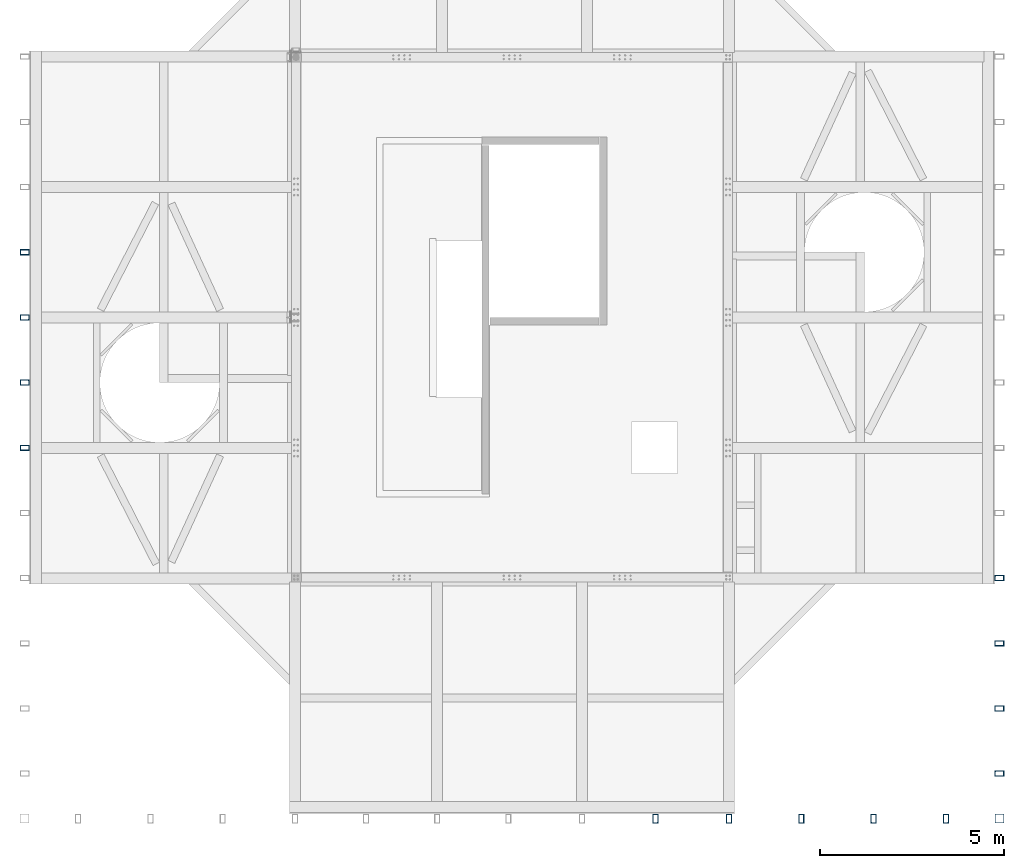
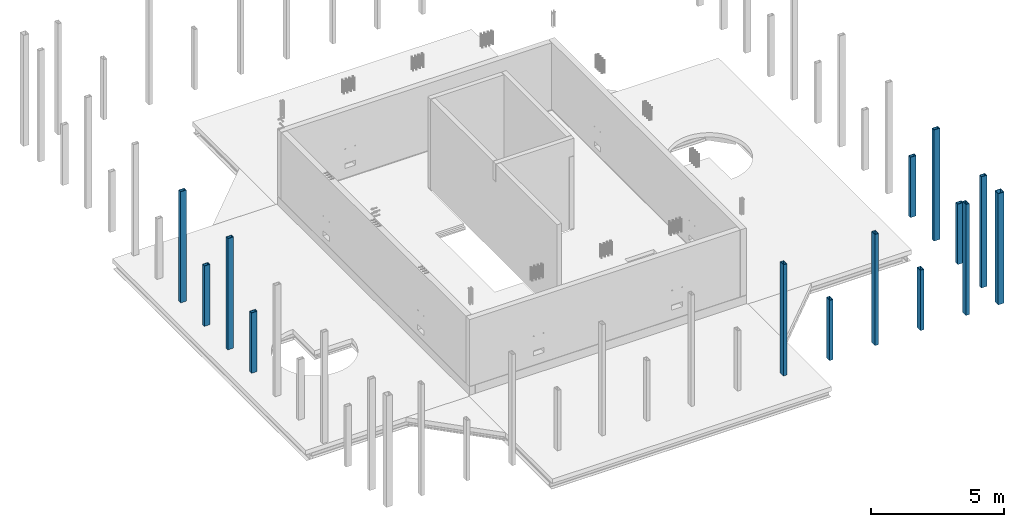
# One storey, part 2 of 16: 14 columns.
"""IFC2X3 building model written with IfcOpenShell, lengths in millimetres."""

from ifc_helpers import new_model, entity, si_unit, converted_unit, derived_unit, direction, frame, frame_2d, origin, place, context, subcontext, project, spatial, polyline, circle_curve, parameter, trimmed, segment, composite_curve, outline, extrude, source, transform, mapped, material, type_object, type_shapes, element, save


model = new_model("IFC2X3")

# Units and contexts
model_context = context("Model", 3, precision=0.01, world=origin(), true_north=direction((6.12303176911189e-17, 1.0)))
body_context = subcontext(model_context, "Body", "Model", "MODEL_VIEW")
ifc_project = project(units=[si_unit("LENGTHUNIT", "METRE", prefix="MILLI"), si_unit("AREAUNIT", "SQUARE_METRE"), si_unit("VOLUMEUNIT", "CUBIC_METRE"), converted_unit("PLANEANGLEUNIT", "DEGREE", entity("IfcRatioMeasure", 0.0174532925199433), si_unit("PLANEANGLEUNIT", "RADIAN"), dimensions=[0, 0, 0, 0, 0, 0, 0]), si_unit("MASSUNIT", "GRAM", prefix="KILO"), derived_unit("MASSDENSITYUNIT", [(si_unit("MASSUNIT", "GRAM", prefix="KILO"), 1), (si_unit("LENGTHUNIT", "METRE"), -3)]), si_unit("TIMEUNIT", "SECOND"), si_unit("FREQUENCYUNIT", "HERTZ"), si_unit("THERMODYNAMICTEMPERATUREUNIT", "DEGREE_CELSIUS"), derived_unit("THERMALTRANSMITTANCEUNIT", [(si_unit("MASSUNIT", "GRAM", prefix="KILO"), 1), (si_unit("THERMODYNAMICTEMPERATUREUNIT", "KELVIN"), -1), (si_unit("TIMEUNIT", "SECOND"), -3)]), derived_unit("VOLUMETRICFLOWRATEUNIT", [(si_unit("LENGTHUNIT", "METRE"), 3), (si_unit("TIMEUNIT", "SECOND"), -1)]), si_unit("ELECTRICCURRENTUNIT", "AMPERE"), si_unit("ELECTRICVOLTAGEUNIT", "VOLT"), si_unit("POWERUNIT", "WATT"), si_unit("FORCEUNIT", "NEWTON", prefix="KILO"), si_unit("ILLUMINANCEUNIT", "LUX"), si_unit("LUMINOUSFLUXUNIT", "LUMEN"), si_unit("LUMINOUSINTENSITYUNIT", "CANDELA"), derived_unit("USERDEFINED", [(si_unit("MASSUNIT", "GRAM", prefix="KILO"), -1), (si_unit("LENGTHUNIT", "METRE"), -2), (si_unit("TIMEUNIT", "SECOND"), 3), (si_unit("LUMINOUSFLUXUNIT", "LUMEN"), 1)]), derived_unit("LINEARVELOCITYUNIT", [(si_unit("LENGTHUNIT", "METRE"), 1), (si_unit("TIMEUNIT", "SECOND"), -1)]), si_unit("PRESSUREUNIT", "PASCAL"), derived_unit("USERDEFINED", [(si_unit("LENGTHUNIT", "METRE"), -2), (si_unit("MASSUNIT", "GRAM", prefix="KILO"), 1), (si_unit("TIMEUNIT", "SECOND"), -2)])], contexts=[model_context])

# Site, building, storey
site_placement = place(None, origin())
site = spatial("IfcSite", under=ifc_project, at=site_placement, Name="Default", CompositionType="ELEMENT")
building_placement = place(site_placement, origin())
building = spatial("IfcBuilding", under=site, at=building_placement, Name="niet gebruiken", CompositionType="ELEMENT")
storey_placement = place(building_placement, frame((0.0, 0.0, 183150.0)))
storey = spatial("IfcBuildingStorey", under=building, at=storey_placement, Name="58 achtenvijftigste verdieping", CompositionType="ELEMENT", Elevation=183150.0)

# Columns
ifc_material = material(Name="NLRS_h2_staal")
column_type_1 = type_object("IfcColumnType", Name="kolom buisprofiel rechthoekig RHSH_250x150x16", PredefinedType="COLUMN", material=ifc_material)
shared_shape_1 = source(origin(), body_context, "Body", "SweptSolid", [
    extrude(outline(polyline([(-125.0, -75.0), (125.0, -75.0), (125.0, 75.0), (-125.0, 75.0), (-125.0, -75.0)]), holes=[composite_curve([segment(trimmed(circle_curve(frame_2d((-96.4999999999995, -46.5), x_axis=(0.0, 1.0)), 12.5), [parameter(90.0)], [parameter(180.0)], True, "PARAMETER"), False, "CONTINUOUS"), segment(polyline([(-109.0, -46.5), (-109.0, 46.5)]), True, "CONTINUOUS"), segment(trimmed(circle_curve(frame_2d((-96.4999999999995, 46.5), x_axis=(0.0, 1.0)), 12.5), [parameter(360.0)], [parameter(89.9999999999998)], True, "PARAMETER"), False, "CONTINUOUS"), segment(polyline([(-96.4999999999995, 59.0), (96.5000000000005, 59.0)]), True, "CONTINUOUS"), segment(trimmed(circle_curve(frame_2d((96.5000000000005, 46.5), x_axis=(0.0, 1.0)), 12.5), [parameter(270.0)], [parameter(360.0)], True, "PARAMETER"), False, "CONTINUOUS"), segment(polyline([(109.0, 46.5), (109.0, -46.5)]), True, "CONTINUOUS"), segment(trimmed(circle_curve(frame_2d((96.5000000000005, -46.5), x_axis=(0.0, 1.0)), 12.5), [parameter(180.0)], [parameter(270.0)], True, "PARAMETER"), False, "CONTINUOUS"), segment(polyline([(96.5000000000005, -59.0), (-96.4999999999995, -59.0)]), True, "CONTINUOUS")], self_intersect=False)]), frame((145650.0, 3870.0, 184200.0), z_axis=(0.0, 0.0, 1.0), x_axis=(0.0, -1.0, 0.0)), (0.0, 0.0, 1.0), 5089.99999999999),
])
type_shapes(column_type_1, [shared_shape_1])
column_1_placement = place(storey_placement, frame((0.0, 0.0, -183150.0)))
element("IfcColumn", 1, at=column_1_placement, inside=storey, type_object=column_type_1, material=ifc_material, Name="NLRS_28.11_SCO_TLB_stalen kolom buisprofiel rechthoekig_gen:kolom buisprofiel rechthoekig RHSH_250x150x16", ObjectType="kolom buisprofiel rechthoekig RHSH_250x150x16", context=body_context, shape_type="MappedRepresentation", body=[
    mapped(shared_shape_1, transform((0.0, 0.0, 0.0), scale=1.0)),
])
column_type_2 = type_object("IfcColumnType", Name="kolom buisprofiel rechthoekig RHSH_250x150x16", PredefinedType="COLUMN", material=ifc_material)
shared_shape_2 = source(origin(), body_context, "Body", "SweptSolid", [
    extrude(outline(polyline([(-125.0, -75.0), (125.0, -75.0), (125.0, 75.0), (-125.0, 75.0), (-125.0, -75.0)]), holes=[composite_curve([segment(trimmed(circle_curve(frame_2d((-96.4999999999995, -46.4999999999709), x_axis=(0.0, 1.0)), 12.5), [parameter(90.0)], [parameter(180.0)], True, "PARAMETER"), False, "CONTINUOUS"), segment(polyline([(-109.0, -46.4999999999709), (-109.0, 46.5)]), True, "CONTINUOUS"), segment(trimmed(circle_curve(frame_2d((-96.4999999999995, 46.5), x_axis=(0.0, 1.0)), 12.5), [parameter(360.0)], [parameter(89.9999999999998)], True, "PARAMETER"), False, "CONTINUOUS"), segment(polyline([(-96.4999999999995, 59.0), (96.5000000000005, 59.0)]), True, "CONTINUOUS"), segment(trimmed(circle_curve(frame_2d((96.5000000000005, 46.5), x_axis=(0.0, 1.0)), 12.5), [parameter(270.0)], [parameter(360.0)], True, "PARAMETER"), False, "CONTINUOUS"), segment(polyline([(109.0, 46.5), (109.0, -46.4999999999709)]), True, "CONTINUOUS"), segment(trimmed(circle_curve(frame_2d((96.5000000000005, -46.4999999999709), x_axis=(0.0, 1.0)), 12.5), [parameter(180.0)], [parameter(270.0)], True, "PARAMETER"), False, "CONTINUOUS"), segment(polyline([(96.5000000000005, -59.0), (-96.4999999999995, -59.0)]), True, "CONTINUOUS")], self_intersect=False)]), frame((153550.0, 3870.0, 184200.0), z_axis=(0.0, 0.0, 1.0), x_axis=(0.0, -1.0, 0.0)), (0.0, 0.0, 1.0), 5089.99999999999),
])
type_shapes(column_type_2, [shared_shape_2])
column_2_placement = place(storey_placement, frame((0.0, 0.0, -183150.0)))
element("IfcColumn", 2, at=column_2_placement, inside=storey, type_object=column_type_2, material=ifc_material, Name="NLRS_28.11_SCO_TLB_stalen kolom buisprofiel rechthoekig_gen:kolom buisprofiel rechthoekig RHSH_250x150x16", ObjectType="kolom buisprofiel rechthoekig RHSH_250x150x16", context=body_context, shape_type="MappedRepresentation", body=[
    mapped(shared_shape_2, transform((0.0, 0.0, 0.0), scale=1.0)),
])
column_type_3 = type_object("IfcColumnType", Name="kolom buisprofiel warmgevormd vierkant SHSH_250x250x16", PredefinedType="COLUMN", material=ifc_material)
shared_shape_3 = source(origin(), body_context, "Body", "SweptSolid", [
    extrude(outline(polyline([(-125.0, -125.0), (125.0, -125.0), (125.0, 125.0), (-125.0, 125.0), (-125.0, -125.0)]), holes=[composite_curve([segment(trimmed(circle_curve(frame_2d((-99.0, -99.0), x_axis=(0.0, 1.0)), 10.0), [parameter(90.0000000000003)], [parameter(180.0)], True, "PARAMETER"), False, "CONTINUOUS"), segment(polyline([(-109.0, -99.0), (-109.0, 99.0)]), True, "CONTINUOUS"), segment(trimmed(circle_curve(frame_2d((-99.0, 99.0), x_axis=(0.0, 1.0)), 10.0), [parameter(0.0)], [parameter(89.9999999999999)], True, "PARAMETER"), False, "CONTINUOUS"), segment(polyline([(-99.0, 109.0), (99.0, 109.0)]), True, "CONTINUOUS"), segment(trimmed(circle_curve(frame_2d((99.0, 99.0), x_axis=(0.0, 1.0)), 10.0), [parameter(270.0)], [parameter(360.0)], True, "PARAMETER"), False, "CONTINUOUS"), segment(polyline([(109.0, 99.0), (109.0, -99.0)]), True, "CONTINUOUS"), segment(trimmed(circle_curve(frame_2d((99.0, -99.0), x_axis=(0.0, 1.0)), 10.0), [parameter(180.0)], [parameter(270.0)], True, "PARAMETER"), False, "CONTINUOUS"), segment(polyline([(99.0, -109.0), (-99.0, -109.0)]), True, "CONTINUOUS")], self_intersect=False)]), frame((155005.0, 3870.0, 184200.0), z_axis=(0.0, 0.0, 1.0), x_axis=(0.0, -1.0, 0.0)), (0.0, 0.0, 1.0), 5089.99999999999),
])
type_shapes(column_type_3, [shared_shape_3])
column_3_placement = place(storey_placement, frame((0.0, 0.0, -183150.0)))
element("IfcColumn", 3, at=column_3_placement, inside=storey, type_object=column_type_3, material=ifc_material, Name="NLRS_28.11_SCO_TLB_stalen kolom buisprofiel warmgevormd vierkant_gen:kolom buisprofiel warmgevormd vierkant SHSH_250x250x16", ObjectType="kolom buisprofiel warmgevormd vierkant SHSH_250x250x16", context=body_context, shape_type="MappedRepresentation", body=[
    mapped(shared_shape_3, transform((0.0, 0.0, 0.0), scale=1.0)),
])
column_type_4 = type_object("IfcColumnType", Name="kolom buisprofiel rechthoekig RHSH_250x150x16", PredefinedType="COLUMN", material=ifc_material)
shared_shape_4 = source(origin(), body_context, "Body", "SweptSolid", [
    extrude(outline(polyline([(-125.0, -75.0), (125.0, -75.0), (125.0, 75.0), (-125.0, 75.0), (-125.0, -75.0)]), holes=[composite_curve([segment(trimmed(circle_curve(frame_2d((-96.5000000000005, -46.5), x_axis=(0.0, 1.0)), 12.5), [parameter(90.0)], [parameter(180.0)], True, "PARAMETER"), False, "CONTINUOUS"), segment(polyline([(-109.0, -46.5), (-109.0, 46.5)]), True, "CONTINUOUS"), segment(trimmed(circle_curve(frame_2d((-96.5000000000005, 46.5), x_axis=(0.0, 1.0)), 12.5), [parameter(360.0)], [parameter(89.9999999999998)], True, "PARAMETER"), False, "CONTINUOUS"), segment(polyline([(-96.5000000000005, 59.0), (96.4999999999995, 59.0)]), True, "CONTINUOUS"), segment(trimmed(circle_curve(frame_2d((96.4999999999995, 46.5), x_axis=(0.0, 1.0)), 12.5), [parameter(270.0)], [parameter(360.0)], True, "PARAMETER"), False, "CONTINUOUS"), segment(polyline([(109.0, 46.5), (109.0, -46.5)]), True, "CONTINUOUS"), segment(trimmed(circle_curve(frame_2d((96.4999999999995, -46.5), x_axis=(0.0, 1.0)), 12.5), [parameter(180.0)], [parameter(270.0)], True, "PARAMETER"), False, "CONTINUOUS"), segment(polyline([(96.4999999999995, -59.0), (-96.5000000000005, -59.0)]), True, "CONTINUOUS")], self_intersect=False)]), frame((147650.0, 3870.0, 184200.0), z_axis=(0.0, 0.0, 1.0), x_axis=(0.0, -1.0, 0.0)), (0.0, 0.0, 1.0), 2760.0),
])
type_shapes(column_type_4, [shared_shape_4])
column_4_placement = place(storey_placement, frame((0.0, 0.0, -183150.0)))
element("IfcColumn", 4, at=column_4_placement, inside=storey, type_object=column_type_4, material=ifc_material, Name="NLRS_28.11_SCO_TLB_stalen kolom buisprofiel rechthoekig_gen:kolom buisprofiel rechthoekig RHSH_250x150x16", ObjectType="kolom buisprofiel rechthoekig RHSH_250x150x16", context=body_context, shape_type="MappedRepresentation", body=[
    mapped(shared_shape_4, transform((0.0, 0.0, 0.0), scale=1.0)),
])
column_type_5 = type_object("IfcColumnType", Name="kolom buisprofiel rechthoekig RHSH_250x150x16", PredefinedType="COLUMN", material=ifc_material)
shared_shape_5 = source(origin(), body_context, "Body", "SweptSolid", [
    extrude(outline(polyline([(-125.0, -75.0), (125.0, -75.0), (125.0, 75.0), (-125.0, 75.0), (-125.0, -75.0)]), holes=[composite_curve([segment(trimmed(circle_curve(frame_2d((-96.5, -46.5), x_axis=(0.0, 1.0)), 12.5), [parameter(90.0)], [parameter(180.0)], True, "PARAMETER"), False, "CONTINUOUS"), segment(polyline([(-109.0, -46.5), (-109.0, 46.5)]), True, "CONTINUOUS"), segment(trimmed(circle_curve(frame_2d((-96.5, 46.5), x_axis=(0.0, 1.0)), 12.5), [parameter(360.0)], [parameter(89.9999999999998)], True, "PARAMETER"), False, "CONTINUOUS"), segment(polyline([(-96.5, 59.0), (96.5, 59.0)]), True, "CONTINUOUS"), segment(trimmed(circle_curve(frame_2d((96.5, 46.5), x_axis=(0.0, 1.0)), 12.5), [parameter(270.0)], [parameter(360.0)], True, "PARAMETER"), False, "CONTINUOUS"), segment(polyline([(109.0, 46.5), (109.0, -46.5)]), True, "CONTINUOUS"), segment(trimmed(circle_curve(frame_2d((96.5, -46.5), x_axis=(0.0, 1.0)), 12.5), [parameter(180.0)], [parameter(270.0)], True, "PARAMETER"), False, "CONTINUOUS"), segment(polyline([(96.5, -59.0), (-96.5, -59.0)]), True, "CONTINUOUS")], self_intersect=False)]), frame((149616.666666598, 3870.0, 184200.0), z_axis=(0.0, 0.0, 1.0), x_axis=(0.0, -1.0, 0.0)), (0.0, 0.0, 1.0), 5089.99999999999),
])
type_shapes(column_type_5, [shared_shape_5])
column_5_placement = place(storey_placement, frame((0.0, 0.0, -183150.0)))
element("IfcColumn", 5, at=column_5_placement, inside=storey, type_object=column_type_5, material=ifc_material, Name="NLRS_28.11_SCO_TLB_stalen kolom buisprofiel rechthoekig_gen:kolom buisprofiel rechthoekig RHSH_250x150x16", ObjectType="kolom buisprofiel rechthoekig RHSH_250x150x16", context=body_context, shape_type="MappedRepresentation", body=[
    mapped(shared_shape_5, transform((0.0, 0.0, 0.0), scale=1.0)),
])
column_type_6 = type_object("IfcColumnType", Name="kolom buisprofiel rechthoekig RHSH_250x150x16", PredefinedType="COLUMN", material=ifc_material)
shared_shape_6 = source(origin(), body_context, "Body", "SweptSolid", [
    extrude(outline(polyline([(-125.0, -75.0), (125.0, -75.0), (125.0, 75.0), (-125.0, 75.0), (-125.0, -75.0)]), holes=[composite_curve([segment(trimmed(circle_curve(frame_2d((-96.4999999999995, -46.5), x_axis=(0.0, 1.0)), 12.5), [parameter(90.0)], [parameter(180.0)], True, "PARAMETER"), False, "CONTINUOUS"), segment(polyline([(-109.0, -46.5), (-109.0, 46.4999999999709)]), True, "CONTINUOUS"), segment(trimmed(circle_curve(frame_2d((-96.4999999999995, 46.4999999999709), x_axis=(0.0, 1.0)), 12.5), [parameter(360.0)], [parameter(89.9999999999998)], True, "PARAMETER"), False, "CONTINUOUS"), segment(polyline([(-96.4999999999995, 59.0), (96.5, 59.0)]), True, "CONTINUOUS"), segment(trimmed(circle_curve(frame_2d((96.5, 46.4999999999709), x_axis=(0.0, 1.0)), 12.5), [parameter(270.0)], [parameter(360.0)], True, "PARAMETER"), False, "CONTINUOUS"), segment(polyline([(109.0, 46.4999999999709), (109.0, -46.5)]), True, "CONTINUOUS"), segment(trimmed(circle_curve(frame_2d((96.5, -46.5), x_axis=(0.0, 1.0)), 12.5), [parameter(180.0)], [parameter(270.0)], True, "PARAMETER"), False, "CONTINUOUS"), segment(polyline([(96.5, -59.0), (-96.4999999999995, -59.0)]), True, "CONTINUOUS")], self_intersect=False)]), frame((151583.333333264, 3870.0, 184200.0), z_axis=(0.0, 0.0, 1.0), x_axis=(0.0, -1.0, 0.0)), (0.0, 0.0, 1.0), 2760.0),
])
type_shapes(column_type_6, [shared_shape_6])
column_6_placement = place(storey_placement, frame((0.0, 0.0, -183150.0)))
element("IfcColumn", 6, at=column_6_placement, inside=storey, type_object=column_type_6, material=ifc_material, Name="NLRS_28.11_SCO_TLB_stalen kolom buisprofiel rechthoekig_gen:kolom buisprofiel rechthoekig RHSH_250x150x16", ObjectType="kolom buisprofiel rechthoekig RHSH_250x150x16", context=body_context, shape_type="MappedRepresentation", body=[
    mapped(shared_shape_6, transform((0.0, 0.0, 0.0), scale=1.0)),
])
column_type_7 = type_object("IfcColumnType", Name="kolom buisprofiel rechthoekig RHSH_250x150x16", PredefinedType="COLUMN", material=ifc_material)
shared_shape_7 = source(origin(), body_context, "Body", "SweptSolid", [
    extrude(outline(polyline([(-125.0, -75.0), (125.0, -75.0), (125.0, 75.0), (-125.0, 75.0), (-125.0, -75.0)]), holes=[composite_curve([segment(trimmed(circle_curve(frame_2d((-96.5, -46.5), x_axis=(0.0, 1.0)), 12.5), [parameter(90.0)], [parameter(180.0)], True, "PARAMETER"), False, "CONTINUOUS"), segment(polyline([(-109.0, -46.5), (-109.0, 46.5000000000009)]), True, "CONTINUOUS"), segment(trimmed(circle_curve(frame_2d((-96.5, 46.5000000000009), x_axis=(0.0, 1.0)), 12.5), [parameter(360.0)], [parameter(89.9999999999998)], True, "PARAMETER"), False, "CONTINUOUS"), segment(polyline([(-96.4999999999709, 59.0), (96.5000000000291, 59.0)]), True, "CONTINUOUS"), segment(trimmed(circle_curve(frame_2d((96.5000000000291, 46.5000000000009), x_axis=(0.0, 1.0)), 12.5), [parameter(270.0)], [parameter(360.0)], True, "PARAMETER"), False, "CONTINUOUS"), segment(polyline([(109.0, 46.4999999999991), (109.0, -46.5)]), True, "CONTINUOUS"), segment(trimmed(circle_curve(frame_2d((96.5000000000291, -46.5), x_axis=(0.0, 1.0)), 12.5), [parameter(180.0)], [parameter(270.0)], True, "PARAMETER"), False, "CONTINUOUS"), segment(polyline([(96.5000000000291, -59.0), (-96.4999999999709, -59.0)]), True, "CONTINUOUS")], self_intersect=False)]), frame((155005.0, 5092.50000000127, 184200.0)), (0.0, 0.0, 1.0), 5089.99999999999),
])
type_shapes(column_type_7, [shared_shape_7])
column_7_placement = place(storey_placement, frame((0.0, 0.0, -183150.0)))
element("IfcColumn", 7, at=column_7_placement, inside=storey, type_object=column_type_7, material=ifc_material, Name="NLRS_28.11_SCO_TLB_stalen kolom buisprofiel rechthoekig_gen:kolom buisprofiel rechthoekig RHSH_250x150x16", ObjectType="kolom buisprofiel rechthoekig RHSH_250x150x16", context=body_context, shape_type="MappedRepresentation", body=[
    mapped(shared_shape_7, transform((0.0, 0.0, 0.0), scale=1.0)),
])
column_type_8 = type_object("IfcColumnType", Name="kolom buisprofiel rechthoekig RHSH_250x150x16", PredefinedType="COLUMN", material=ifc_material)
shared_shape_8 = source(origin(), body_context, "Body", "SweptSolid", [
    extrude(outline(polyline([(-125.0, -75.0), (125.0, -75.0), (125.0, 75.0), (-125.0, 75.0), (-125.0, -75.0)]), holes=[composite_curve([segment(trimmed(circle_curve(frame_2d((-96.5, -46.5), x_axis=(0.0, 1.0)), 12.5), [parameter(90.0)], [parameter(180.0)], True, "PARAMETER"), False, "CONTINUOUS"), segment(polyline([(-109.0, -46.5), (-109.0, 46.5)]), True, "CONTINUOUS"), segment(trimmed(circle_curve(frame_2d((-96.5, 46.5), x_axis=(0.0, 1.0)), 12.5), [parameter(360.0)], [parameter(89.9999999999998)], True, "PARAMETER"), False, "CONTINUOUS"), segment(polyline([(-96.4999999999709, 59.0), (96.5000000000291, 59.0)]), True, "CONTINUOUS"), segment(trimmed(circle_curve(frame_2d((96.5000000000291, 46.5), x_axis=(0.0, 1.0)), 12.5), [parameter(270.0)], [parameter(360.0)], True, "PARAMETER"), False, "CONTINUOUS"), segment(polyline([(109.0, 46.4999999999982), (109.0, -46.5)]), True, "CONTINUOUS"), segment(trimmed(circle_curve(frame_2d((96.5000000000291, -46.5), x_axis=(0.0, 1.0)), 12.5), [parameter(180.0)], [parameter(270.0)], True, "PARAMETER"), False, "CONTINUOUS"), segment(polyline([(96.5000000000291, -59.0), (-96.4999999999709, -59.0)]), True, "CONTINUOUS")], self_intersect=False)]), frame((155005.0, 8637.50000000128, 184200.0)), (0.0, 0.0, 1.0), 5089.99999999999),
])
type_shapes(column_type_8, [shared_shape_8])
column_8_placement = place(storey_placement, frame((0.0, 0.0, -183150.0)))
element("IfcColumn", 8, at=column_8_placement, inside=storey, type_object=column_type_8, material=ifc_material, Name="NLRS_28.11_SCO_TLB_stalen kolom buisprofiel rechthoekig_gen:kolom buisprofiel rechthoekig RHSH_250x150x16", ObjectType="kolom buisprofiel rechthoekig RHSH_250x150x16", context=body_context, shape_type="MappedRepresentation", body=[
    mapped(shared_shape_8, transform((0.0, 0.0, 0.0), scale=1.0)),
])
column_type_9 = type_object("IfcColumnType", Name="kolom buisprofiel rechthoekig RHSH_250x150x16", PredefinedType="COLUMN", material=ifc_material)
shared_shape_9 = source(origin(), body_context, "Body", "SweptSolid", [
    extrude(outline(polyline([(-125.0, -75.0), (125.0, -75.0), (125.0, 75.0), (-125.0, 75.0), (-125.0, -75.0)]), holes=[composite_curve([segment(trimmed(circle_curve(frame_2d((-96.5, -46.5), x_axis=(0.0, 1.0)), 12.5), [parameter(90.0)], [parameter(180.0)], True, "PARAMETER"), False, "CONTINUOUS"), segment(polyline([(-109.0, -46.5), (-109.0, 46.5000000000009)]), True, "CONTINUOUS"), segment(trimmed(circle_curve(frame_2d((-96.5, 46.5000000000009), x_axis=(0.0, 1.0)), 12.5), [parameter(360.0)], [parameter(89.9999999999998)], True, "PARAMETER"), False, "CONTINUOUS"), segment(polyline([(-96.4999999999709, 59.0), (96.5000000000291, 59.0)]), True, "CONTINUOUS"), segment(trimmed(circle_curve(frame_2d((96.5000000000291, 46.5000000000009), x_axis=(0.0, 1.0)), 12.5), [parameter(270.0)], [parameter(360.0)], True, "PARAMETER"), False, "CONTINUOUS"), segment(polyline([(109.0, 46.5), (109.0, -46.5)]), True, "CONTINUOUS"), segment(trimmed(circle_curve(frame_2d((96.5000000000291, -46.5), x_axis=(0.0, 1.0)), 12.5), [parameter(180.0)], [parameter(270.0)], True, "PARAMETER"), False, "CONTINUOUS"), segment(polyline([(96.5000000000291, -59.0), (-96.4999999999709, -59.0)]), True, "CONTINUOUS")], self_intersect=False)]), frame((155005.0, 6865.0, 184200.0)), (0.0, 0.0, 1.0), 2760.0),
])
type_shapes(column_type_9, [shared_shape_9])
column_9_placement = place(storey_placement, frame((0.0, 0.0, -183150.0)))
element("IfcColumn", 9, at=column_9_placement, inside=storey, type_object=column_type_9, material=ifc_material, Name="NLRS_28.11_SCO_TLB_stalen kolom buisprofiel rechthoekig_gen:kolom buisprofiel rechthoekig RHSH_250x150x16", ObjectType="kolom buisprofiel rechthoekig RHSH_250x150x16", context=body_context, shape_type="MappedRepresentation", body=[
    mapped(shared_shape_9, transform((0.0, 0.0, 0.0), scale=1.0)),
])
column_type_10 = type_object("IfcColumnType", Name="kolom buisprofiel rechthoekig RHSH_250x150x16", PredefinedType="COLUMN", material=ifc_material)
shared_shape_10 = source(origin(), body_context, "Body", "SweptSolid", [
    extrude(outline(polyline([(-125.0, -75.0), (125.0, -75.0), (125.0, 75.0), (-125.0, 75.0), (-125.0, -75.0)]), holes=[composite_curve([segment(trimmed(circle_curve(frame_2d((-96.5, -46.5), x_axis=(0.0, 1.0)), 12.5), [parameter(90.0)], [parameter(180.0)], True, "PARAMETER"), False, "CONTINUOUS"), segment(polyline([(-109.0, -46.5), (-109.0, 46.5)]), True, "CONTINUOUS"), segment(trimmed(circle_curve(frame_2d((-96.5, 46.5), x_axis=(0.0, 1.0)), 12.5), [parameter(360.0)], [parameter(89.9999999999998)], True, "PARAMETER"), False, "CONTINUOUS"), segment(polyline([(-96.4999999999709, 59.0), (96.5000000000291, 59.0)]), True, "CONTINUOUS"), segment(trimmed(circle_curve(frame_2d((96.5000000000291, 46.5), x_axis=(0.0, 1.0)), 12.5), [parameter(270.0)], [parameter(360.0)], True, "PARAMETER"), False, "CONTINUOUS"), segment(polyline([(109.0, 46.5), (109.0, -46.5)]), True, "CONTINUOUS"), segment(trimmed(circle_curve(frame_2d((96.5000000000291, -46.5), x_axis=(0.0, 1.0)), 12.5), [parameter(180.0)], [parameter(270.0)], True, "PARAMETER"), False, "CONTINUOUS"), segment(polyline([(96.5000000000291, -59.0), (-96.4999999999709, -59.0)]), True, "CONTINUOUS")], self_intersect=False)]), frame((155005.0, 10410.0, 184200.0)), (0.0, 0.0, 1.0), 2760.0),
])
type_shapes(column_type_10, [shared_shape_10])
column_10_placement = place(storey_placement, frame((0.0, 0.0, -183150.0)))
element("IfcColumn", 10, at=column_10_placement, inside=storey, type_object=column_type_10, material=ifc_material, Name="NLRS_28.11_SCO_TLB_stalen kolom buisprofiel rechthoekig_gen:kolom buisprofiel rechthoekig RHSH_250x150x16", ObjectType="kolom buisprofiel rechthoekig RHSH_250x150x16", context=body_context, shape_type="MappedRepresentation", body=[
    mapped(shared_shape_10, transform((0.0, 0.0, 0.0), scale=1.0)),
])
column_type_11 = type_object("IfcColumnType", Name="kolom buisprofiel rechthoekig RHSH_250x150x16", PredefinedType="COLUMN", material=ifc_material)
shared_shape_11 = source(origin(), body_context, "Body", "SweptSolid", [
    extrude(outline(polyline([(-125.0, -75.0), (125.0, -75.0), (125.0, 75.0), (-125.0, 75.0), (-125.0, -75.0)]), holes=[composite_curve([segment(trimmed(circle_curve(frame_2d((-96.5000000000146, -46.5), x_axis=(0.0, 1.0)), 12.5), [parameter(90.0)], [parameter(180.0)], True, "PARAMETER"), False, "CONTINUOUS"), segment(polyline([(-109.0, -46.5), (-109.0, 46.5)]), True, "CONTINUOUS"), segment(trimmed(circle_curve(frame_2d((-96.5000000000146, 46.5), x_axis=(0.0, 1.0)), 12.5), [parameter(360.0)], [parameter(89.9999999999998)], True, "PARAMETER"), False, "CONTINUOUS"), segment(polyline([(-96.5, 59.0), (96.4999999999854, 59.0)]), True, "CONTINUOUS"), segment(trimmed(circle_curve(frame_2d((96.4999999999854, 46.5), x_axis=(0.0, 1.0)), 12.5), [parameter(270.0)], [parameter(360.0)], True, "PARAMETER"), False, "CONTINUOUS"), segment(polyline([(109.0, 46.5), (109.0, -46.5)]), True, "CONTINUOUS"), segment(trimmed(circle_curve(frame_2d((96.4999999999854, -46.5), x_axis=(0.0, 1.0)), 12.5), [parameter(180.0)], [parameter(270.0)], True, "PARAMETER"), False, "CONTINUOUS"), segment(polyline([(96.4999999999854, -59.0), (-96.5, -59.0)]), True, "CONTINUOUS")], self_intersect=False)]), frame((128495.0, 19272.500000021, 184200.0)), (0.0, 0.0, 1.0), 5089.99999999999),
])
type_shapes(column_type_11, [shared_shape_11])
column_11_placement = place(storey_placement, frame((0.0, 0.0, -183150.0)))
element("IfcColumn", 11, at=column_11_placement, inside=storey, type_object=column_type_11, material=ifc_material, Name="NLRS_28.11_SCO_TLB_stalen kolom buisprofiel rechthoekig_gen:kolom buisprofiel rechthoekig RHSH_250x150x16", ObjectType="kolom buisprofiel rechthoekig RHSH_250x150x16", context=body_context, shape_type="MappedRepresentation", body=[
    mapped(shared_shape_11, transform((0.0, 0.0, 0.0), scale=1.0)),
])
column_type_12 = type_object("IfcColumnType", Name="kolom buisprofiel rechthoekig RHSH_250x150x16", PredefinedType="COLUMN", material=ifc_material)
shared_shape_12 = source(origin(), body_context, "Body", "SweptSolid", [
    extrude(outline(polyline([(-125.0, -75.0), (125.0, -75.0), (125.0, 75.0), (-125.0, 75.0), (-125.0, -75.0)]), holes=[composite_curve([segment(trimmed(circle_curve(frame_2d((-96.5000000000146, -46.5), x_axis=(0.0, 1.0)), 12.5), [parameter(90.0)], [parameter(180.0)], True, "PARAMETER"), False, "CONTINUOUS"), segment(polyline([(-109.0, -46.5), (-109.0, 46.5)]), True, "CONTINUOUS"), segment(trimmed(circle_curve(frame_2d((-96.5000000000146, 46.5), x_axis=(0.0, 1.0)), 12.5), [parameter(360.0)], [parameter(89.9999999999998)], True, "PARAMETER"), False, "CONTINUOUS"), segment(polyline([(-96.5, 59.0), (96.4999999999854, 59.0)]), True, "CONTINUOUS"), segment(trimmed(circle_curve(frame_2d((96.4999999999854, 46.5), x_axis=(0.0, 1.0)), 12.5), [parameter(270.0)], [parameter(360.0)], True, "PARAMETER"), False, "CONTINUOUS"), segment(polyline([(109.0, 46.5), (109.0, -46.5)]), True, "CONTINUOUS"), segment(trimmed(circle_curve(frame_2d((96.4999999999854, -46.5), x_axis=(0.0, 1.0)), 12.5), [parameter(180.0)], [parameter(270.0)], True, "PARAMETER"), False, "CONTINUOUS"), segment(polyline([(96.4999999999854, -59.0), (-96.5, -59.0)]), True, "CONTINUOUS")], self_intersect=False)]), frame((128495.0, 17500.0, 184200.0)), (0.0, 0.0, 1.0), 2760.0),
])
type_shapes(column_type_12, [shared_shape_12])
column_12_placement = place(storey_placement, frame((0.0, 0.0, -183150.0)))
element("IfcColumn", 12, at=column_12_placement, inside=storey, type_object=column_type_12, material=ifc_material, Name="NLRS_28.11_SCO_TLB_stalen kolom buisprofiel rechthoekig_gen:kolom buisprofiel rechthoekig RHSH_250x150x16", ObjectType="kolom buisprofiel rechthoekig RHSH_250x150x16", context=body_context, shape_type="MappedRepresentation", body=[
    mapped(shared_shape_12, transform((0.0, 0.0, 0.0), scale=1.0)),
])
column_type_13 = type_object("IfcColumnType", Name="kolom buisprofiel rechthoekig RHSH_250x150x16", PredefinedType="COLUMN", material=ifc_material)
shared_shape_13 = source(origin(), body_context, "Body", "SweptSolid", [
    extrude(outline(polyline([(-125.0, -75.0), (125.0, -75.0), (125.0, 75.0), (-125.0, 75.0), (-125.0, -75.0)]), holes=[composite_curve([segment(trimmed(circle_curve(frame_2d((-96.5000000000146, -46.5), x_axis=(0.0, 1.0)), 12.5), [parameter(90.0)], [parameter(180.0)], True, "PARAMETER"), False, "CONTINUOUS"), segment(polyline([(-109.0, -46.5), (-109.0, 46.5)]), True, "CONTINUOUS"), segment(trimmed(circle_curve(frame_2d((-96.5000000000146, 46.5), x_axis=(0.0, 1.0)), 12.5), [parameter(360.0)], [parameter(89.9999999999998)], True, "PARAMETER"), False, "CONTINUOUS"), segment(polyline([(-96.5, 59.0), (96.4999999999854, 59.0)]), True, "CONTINUOUS"), segment(trimmed(circle_curve(frame_2d((96.4999999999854, 46.5), x_axis=(0.0, 1.0)), 12.5), [parameter(270.0)], [parameter(360.0)], True, "PARAMETER"), False, "CONTINUOUS"), segment(polyline([(109.0, 46.5), (109.0, -46.5)]), True, "CONTINUOUS"), segment(trimmed(circle_curve(frame_2d((96.4999999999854, -46.5), x_axis=(0.0, 1.0)), 12.5), [parameter(180.0)], [parameter(270.0)], True, "PARAMETER"), False, "CONTINUOUS"), segment(polyline([(96.4999999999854, -59.0), (-96.5, -59.0)]), True, "CONTINUOUS")], self_intersect=False)]), frame((128495.0, 15727.5000000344, 184200.0)), (0.0, 0.0, 1.0), 5089.99999999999),
])
type_shapes(column_type_13, [shared_shape_13])
column_13_placement = place(storey_placement, frame((0.0, 0.0, -183150.0)))
element("IfcColumn", 13, at=column_13_placement, inside=storey, type_object=column_type_13, material=ifc_material, Name="NLRS_28.11_SCO_TLB_stalen kolom buisprofiel rechthoekig_gen:kolom buisprofiel rechthoekig RHSH_250x150x16", ObjectType="kolom buisprofiel rechthoekig RHSH_250x150x16", context=body_context, shape_type="MappedRepresentation", body=[
    mapped(shared_shape_13, transform((0.0, 0.0, 0.0), scale=1.0)),
])
column_type_14 = type_object("IfcColumnType", Name="kolom buisprofiel rechthoekig RHSH_250x150x16", PredefinedType="COLUMN", material=ifc_material)
shared_shape_14 = source(origin(), body_context, "Body", "SweptSolid", [
    extrude(outline(polyline([(-125.0, -75.0), (125.0, -75.0), (125.0, 75.0), (-125.0, 75.0), (-125.0, -75.0)]), holes=[composite_curve([segment(trimmed(circle_curve(frame_2d((-96.5000000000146, -46.5), x_axis=(0.0, 1.0)), 12.5), [parameter(90.0)], [parameter(180.0)], True, "PARAMETER"), False, "CONTINUOUS"), segment(polyline([(-109.0, -46.5), (-109.0, 46.5)]), True, "CONTINUOUS"), segment(trimmed(circle_curve(frame_2d((-96.5000000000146, 46.5), x_axis=(0.0, 1.0)), 12.5), [parameter(360.0)], [parameter(89.9999999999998)], True, "PARAMETER"), False, "CONTINUOUS"), segment(polyline([(-96.5, 59.0), (96.4999999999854, 59.0)]), True, "CONTINUOUS"), segment(trimmed(circle_curve(frame_2d((96.4999999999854, 46.5), x_axis=(0.0, 1.0)), 12.5), [parameter(270.0)], [parameter(360.0)], True, "PARAMETER"), False, "CONTINUOUS"), segment(polyline([(109.0, 46.5), (109.0, -46.5)]), True, "CONTINUOUS"), segment(trimmed(circle_curve(frame_2d((96.4999999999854, -46.5), x_axis=(0.0, 1.0)), 12.5), [parameter(180.0)], [parameter(270.0)], True, "PARAMETER"), False, "CONTINUOUS"), segment(polyline([(96.4999999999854, -59.0), (-96.5, -59.0)]), True, "CONTINUOUS")], self_intersect=False)]), frame((128495.0, 13955.0, 184200.0)), (0.0, 0.0, 1.0), 2760.0),
])
type_shapes(column_type_14, [shared_shape_14])
column_14_placement = place(storey_placement, frame((0.0, 0.0, -183150.0)))
element("IfcColumn", 14, at=column_14_placement, inside=storey, type_object=column_type_14, material=ifc_material, Name="NLRS_28.11_SCO_TLB_stalen kolom buisprofiel rechthoekig_gen:kolom buisprofiel rechthoekig RHSH_250x150x16", ObjectType="kolom buisprofiel rechthoekig RHSH_250x150x16", context=body_context, shape_type="MappedRepresentation", body=[
    mapped(shared_shape_14, transform((0.0, 0.0, 0.0), scale=1.0)),
])

save(model, "model.ifc")
